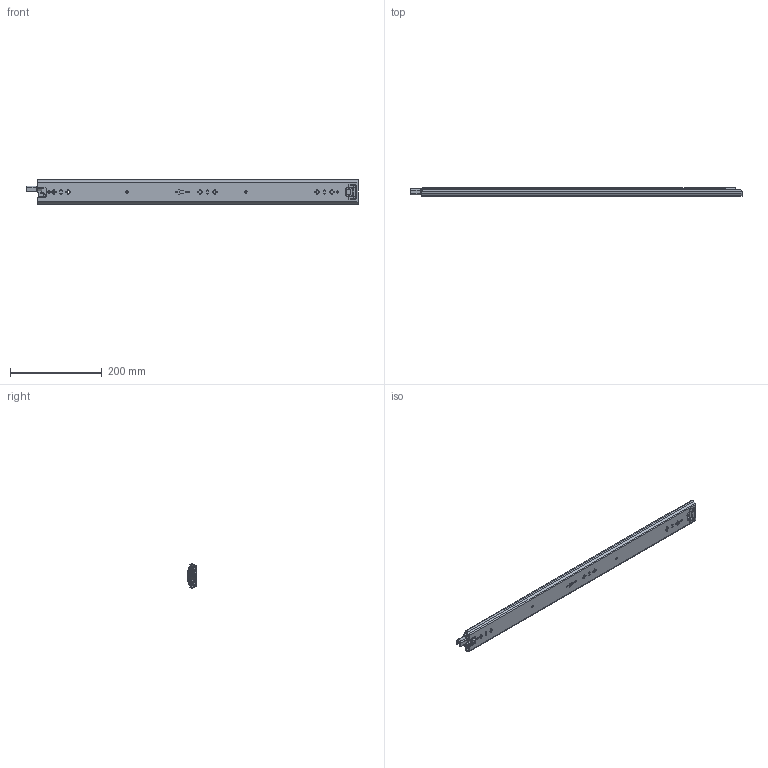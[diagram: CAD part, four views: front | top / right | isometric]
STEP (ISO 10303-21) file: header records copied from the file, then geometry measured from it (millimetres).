
FILE_DESCRIPTION((''),'2;1');
FILE_NAME('1053-3S-28YOU_ASM','2023-04-12T',('jishu015'),(''),'PRO/ENGINEER BY PARAMETRIC TECHNOLOGY CORPORATION, 2010280','PRO/ENGINEER BY PARAMETRIC TECHNOLOGY CORPORATION, 2010280','');
FILE_SCHEMA(('CONFIG_CONTROL_DESIGN'));
Products named in the file (20): 1053-02-18WAIKE_________; 1053WEIJIAO_________; 1053-3S-24WAIKE__________ASM; 1053ZHUTIAO-175_________; 53-5-6GANZHU_________; 1053ZHUTIAO-175MM__________ASM; 1053-02-18ZHONGGUI_________; ZHONGGUIPEIJIAN_______; ZHONGGUISUOKOU_______; 1053-02-18ZHONGGUI__________ASM; 1053XIAOZHUJIA-14GE_________; 1053XIAOZHUJIA-14GE__________ASM; 1053-02-18NEIGUI_________; DAOPIAN_____; PIAN_____; 1053-3SBANJI123____; JIAO-11____; 50XINSUOKOU11___; 1053-02-18NEIGUI__________ASM; 1053-3S-28YOU_ASM
Assembly tree (79 placements, depth 3):
  1053-3S-28YOU_ASM
    1053-3S-24WAIKE__________ASM
      1053-02-18WAIKE_________
      1053WEIJIAO_________
    1053ZHUTIAO-175MM__________ASM  x2
      1053ZHUTIAO-175_________
      53-5-6GANZHU_________
    1053-02-18ZHONGGUI__________ASM
      1053-02-18ZHONGGUI_________
      ZHONGGUIPEIJIAN_______
      ZHONGGUISUOKOU_______
    1053XIAOZHUJIA-14GE__________ASM
      1053XIAOZHUJIA-14GE_________
      53-5-6GANZHU_________  x48
    1053-02-18NEIGUI__________ASM
      1053-02-18NEIGUI_________
      DAOPIAN_____
      PIAN_____
      1053-3SBANJI123____
      JIAO-11____
      50XINSUOKOU11___
Bounding box: 725.42 x 18.7 x 53 mm (x, y, z)
Volume: 266663.6 mm3; surface area: 308076.5 mm2
Topology: 87 solids, 87 shells, 2263 faces, 6532 edges, 4084 vertices
Faces by surface type: cylinder 972, plane 925, sphere 152, bspline 105, cone 70, extrusion 23, torus 16
Entity records: 73682 total; most frequent: CARTESIAN_POINT 18567, ORIENTED_EDGE 11702, DIRECTION 11304, EDGE_CURVE 5851, AXIS2_PLACEMENT_3D 3905, VERTEX_POINT 3781, VECTOR 3494, LINE 3471
